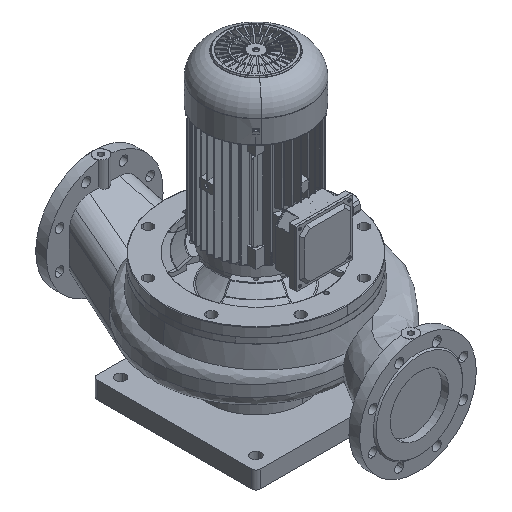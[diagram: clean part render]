
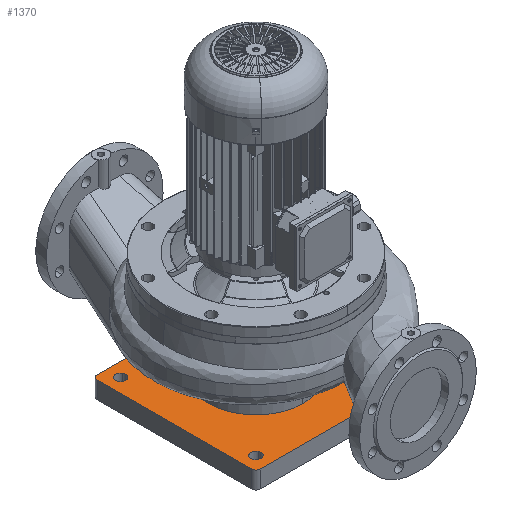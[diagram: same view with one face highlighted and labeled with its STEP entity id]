
A CAD part, isometric view. The second image highlights one B-rep face of the part: STEP entity #1370.
In plain terms, the highlighted planar face has unit normal (0, 0, 1).
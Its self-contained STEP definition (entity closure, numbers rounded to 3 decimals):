
#1370=ADVANCED_FACE('',(#2555,#2556,#2557,#2558,#2559),#2560,.T.);
#2555=FACE_OUTER_BOUND('',#6860,.T.);
#2556=FACE_BOUND('',#6861,.T.);
#2557=FACE_BOUND('',#6862,.T.);
#2558=FACE_BOUND('',#6863,.T.);
#2559=FACE_BOUND('',#6864,.T.);
#2560=PLANE('',#6865);
#6860=EDGE_LOOP('',(#11974,#11975,#11976,#11977,#11978,#11979,#11980,#11981));
#6861=EDGE_LOOP('',(#11982,#11983));
#6862=EDGE_LOOP('',(#11984,#11985));
#6863=EDGE_LOOP('',(#11986,#11987));
#6864=EDGE_LOOP('',(#11988,#11989));
#6865=AXIS2_PLACEMENT_3D('',#11990,#11991,#11992);
#11974=ORIENTED_EDGE('',*,*,#17673,.F.);
#11975=ORIENTED_EDGE('',*,*,#17695,.F.);
#11976=ORIENTED_EDGE('',*,*,#17692,.F.);
#11977=ORIENTED_EDGE('',*,*,#17689,.F.);
#11978=ORIENTED_EDGE('',*,*,#17686,.F.);
#11979=ORIENTED_EDGE('',*,*,#17683,.F.);
#11980=ORIENTED_EDGE('',*,*,#17680,.F.);
#11981=ORIENTED_EDGE('',*,*,#17677,.F.);
#11982=ORIENTED_EDGE('',*,*,#17671,.F.);
#11983=ORIENTED_EDGE('',*,*,#17651,.F.);
#11984=ORIENTED_EDGE('',*,*,#17669,.F.);
#11985=ORIENTED_EDGE('',*,*,#17655,.F.);
#11986=ORIENTED_EDGE('',*,*,#17667,.F.);
#11987=ORIENTED_EDGE('',*,*,#17659,.F.);
#11988=ORIENTED_EDGE('',*,*,#17665,.F.);
#11989=ORIENTED_EDGE('',*,*,#17663,.F.);
#11990=CARTESIAN_POINT('',(-662.85,423.25,37.0));
#11991=DIRECTION('',(0.0,0.0,1.0));
#11992=DIRECTION('',(1.0,0.0,0.0));
#17651=EDGE_CURVE('',#30401,#30399,#30403,.T.);
#17655=EDGE_CURVE('',#30407,#30405,#30409,.T.);
#17659=EDGE_CURVE('',#30413,#30411,#30415,.T.);
#17663=EDGE_CURVE('',#30419,#30417,#30421,.T.);
#17665=EDGE_CURVE('',#30417,#30419,#30423,.T.);
#17667=EDGE_CURVE('',#30411,#30413,#30425,.T.);
#17669=EDGE_CURVE('',#30405,#30407,#30427,.T.);
#17671=EDGE_CURVE('',#30399,#30401,#30429,.T.);
#17673=EDGE_CURVE('',#30431,#30432,#30433,.T.);
#17677=EDGE_CURVE('',#30432,#30437,#30438,.T.);
#17680=EDGE_CURVE('',#30437,#30441,#30442,.T.);
#17683=EDGE_CURVE('',#30441,#30445,#30446,.T.);
#17686=EDGE_CURVE('',#30445,#30449,#30450,.T.);
#17689=EDGE_CURVE('',#30449,#30453,#30454,.T.);
#17692=EDGE_CURVE('',#30453,#30457,#30458,.T.);
#17695=EDGE_CURVE('',#30457,#30431,#30461,.T.);
#30399=VERTEX_POINT('',#36057);
#30401=VERTEX_POINT('',#36060);
#30403=CIRCLE('',#36063,11.0);
#30405=VERTEX_POINT('',#36065);
#30407=VERTEX_POINT('',#36068);
#30409=CIRCLE('',#36071,11.0);
#30411=VERTEX_POINT('',#36073);
#30413=VERTEX_POINT('',#36076);
#30415=CIRCLE('',#36079,11.0);
#30417=VERTEX_POINT('',#36081);
#30419=VERTEX_POINT('',#36084);
#30421=CIRCLE('',#36087,11.0);
#30423=CIRCLE('',#36089,11.0);
#30425=CIRCLE('',#36091,11.0);
#30427=CIRCLE('',#36093,11.0);
#30429=CIRCLE('',#36095,11.0);
#30431=VERTEX_POINT('',#36097);
#30432=VERTEX_POINT('',#36098);
#30433=CIRCLE('',#36099,10.0);
#30437=VERTEX_POINT('',#36105);
#30438=LINE('',#36106,#36107);
#30441=VERTEX_POINT('',#36111);
#30442=CIRCLE('',#36112,10.0);
#30445=VERTEX_POINT('',#36116);
#30446=LINE('',#36117,#36118);
#30449=VERTEX_POINT('',#36122);
#30450=CIRCLE('',#36123,10.0);
#30453=VERTEX_POINT('',#36127);
#30454=LINE('',#36128,#36129);
#30457=VERTEX_POINT('',#36133);
#30458=CIRCLE('',#36134,10.0);
#30461=LINE('',#36138,#36139);
#36057=CARTESIAN_POINT('',(-631.85,103.25,37.0));
#36060=CARTESIAN_POINT('',(-653.85,103.25,37.0));
#36063=AXIS2_PLACEMENT_3D('',#43049,#43050,#43051);
#36065=CARTESIAN_POINT('',(-362.438,97.859,37.0));
#36068=CARTESIAN_POINT('',(-343.262,108.641,37.0));
#36071=AXIS2_PLACEMENT_3D('',#43054,#43055,#43056);
#36073=CARTESIAN_POINT('',(-635.072,385.472,37.0));
#36076=CARTESIAN_POINT('',(-650.628,401.028,37.0));
#36079=AXIS2_PLACEMENT_3D('',#43059,#43060,#43061);
#36081=CARTESIAN_POINT('',(-362.556,388.075,37.0));
#36084=CARTESIAN_POINT('',(-343.144,398.425,37.0));
#36087=AXIS2_PLACEMENT_3D('',#43064,#43065,#43066);
#36089=AXIS2_PLACEMENT_3D('',#43067,#43068,#43069);
#36091=AXIS2_PLACEMENT_3D('',#43070,#43071,#43072);
#36093=AXIS2_PLACEMENT_3D('',#43073,#43074,#43075);
#36095=AXIS2_PLACEMENT_3D('',#43076,#43077,#43078);
#36097=CARTESIAN_POINT('',(-332.85,423.25,37.0));
#36098=CARTESIAN_POINT('',(-322.85,413.25,37.0));
#36099=AXIS2_PLACEMENT_3D('',#43079,#43080,#43081);
#36105=CARTESIAN_POINT('',(-322.85,83.25,37.0));
#36106=CARTESIAN_POINT('',(-322.85,83.25,37.0));
#36107=VECTOR('',#43084,1.0);
#36111=CARTESIAN_POINT('',(-332.85,73.25,37.0));
#36112=AXIS2_PLACEMENT_3D('',#43086,#43087,#43088);
#36116=CARTESIAN_POINT('',(-662.85,73.25,37.0));
#36117=CARTESIAN_POINT('',(-662.85,73.25,37.0));
#36118=VECTOR('',#43090,1.0);
#36122=CARTESIAN_POINT('',(-672.85,83.25,37.0));
#36123=AXIS2_PLACEMENT_3D('',#43092,#43093,#43094);
#36127=CARTESIAN_POINT('',(-672.85,413.25,37.0));
#36128=CARTESIAN_POINT('',(-672.85,413.25,37.0));
#36129=VECTOR('',#43096,1.0);
#36133=CARTESIAN_POINT('',(-662.85,423.25,37.0));
#36134=AXIS2_PLACEMENT_3D('',#43098,#43099,#43100);
#36138=CARTESIAN_POINT('',(-662.85,423.25,37.0));
#36139=VECTOR('',#43102,1.0);
#43049=CARTESIAN_POINT('',(-642.85,103.25,37.0));
#43050=DIRECTION('',(0.0,0.0,1.0));
#43051=DIRECTION('',(1.0,0.0,0.0));
#43054=CARTESIAN_POINT('',(-352.85,103.25,37.0));
#43055=DIRECTION('',(0.0,0.0,1.0));
#43056=DIRECTION('',(-0.872,-0.49,0.0));
#43059=CARTESIAN_POINT('',(-642.85,393.25,37.0));
#43060=DIRECTION('',(0.0,0.0,1.0));
#43061=DIRECTION('',(0.707,-0.707,0.0));
#43064=CARTESIAN_POINT('',(-352.85,393.25,37.0));
#43065=DIRECTION('',(0.0,0.0,1.0));
#43066=DIRECTION('',(-0.882,-0.47,0.0));
#43067=CARTESIAN_POINT('',(-352.85,393.25,37.0));
#43068=DIRECTION('',(0.0,0.0,1.0));
#43069=DIRECTION('',(-0.882,-0.47,0.0));
#43070=CARTESIAN_POINT('',(-642.85,393.25,37.0));
#43071=DIRECTION('',(0.0,0.0,1.0));
#43072=DIRECTION('',(0.707,-0.707,0.0));
#43073=CARTESIAN_POINT('',(-352.85,103.25,37.0));
#43074=DIRECTION('',(0.0,0.0,1.0));
#43075=DIRECTION('',(-0.872,-0.49,0.0));
#43076=CARTESIAN_POINT('',(-642.85,103.25,37.0));
#43077=DIRECTION('',(0.0,0.0,1.0));
#43078=DIRECTION('',(1.0,0.0,0.0));
#43079=CARTESIAN_POINT('',(-332.85,413.25,37.0));
#43080=DIRECTION('',(0.0,0.0,-1.0));
#43081=DIRECTION('',(0.0,1.0,0.0));
#43084=DIRECTION('',(0.,-1.0,0.0));
#43086=CARTESIAN_POINT('',(-332.85,83.25,37.0));
#43087=DIRECTION('',(-0.0,-0.0,-1.0));
#43088=DIRECTION('',(0.0,-1.0,0.0));
#43090=DIRECTION('',(-1.0,-0.0,-0.0));
#43092=CARTESIAN_POINT('',(-662.85,83.25,37.0));
#43093=DIRECTION('',(-0.0,0.0,-1.0));
#43094=DIRECTION('',(-1.0,0.0,0.0));
#43096=DIRECTION('',(0.0,1.0,0.0));
#43098=CARTESIAN_POINT('',(-662.85,413.25,37.0));
#43099=DIRECTION('',(0.0,0.0,-1.0));
#43100=DIRECTION('',(0.0,1.0,0.0));
#43102=DIRECTION('',(1.0,0.0,0.0));
